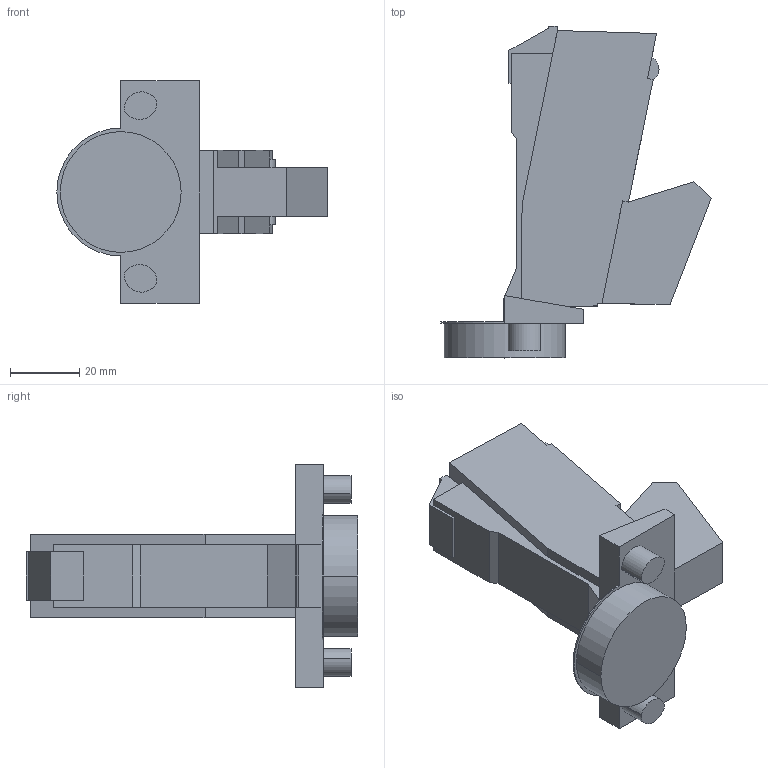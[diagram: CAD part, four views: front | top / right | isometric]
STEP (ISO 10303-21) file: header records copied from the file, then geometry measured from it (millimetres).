
FILE_DESCRIPTION (( 'STEP AP214' ), '1' );
FILE_NAME ('Scharnier TT Impresso 160° HS_BB, K00 - Neu -.step', '2019-09-17T09:15:57', ( '' ), ( '' ), 'SwSTEP 2.0', 'SolidWorks 2019', '' );
FILE_SCHEMA (( 'AUTOMOTIVE_DESIGN' ));
Length unit declared in the file: millimetre
Products named in the file (1): Scharnier TT Impresso 160° HS_BB, K00 - Neu -
Bounding box: 78.27 x 96.09 x 64.5 mm (x, y, z)
Volume: 92289.5 mm3; surface area: 18861.2 mm2
Topology: 1 solids, 1 shells, 65 faces, 173 edges, 114 vertices
Faces by surface type: plane 54, cylinder 11
Entity records: 2031 total; most frequent: CARTESIAN_POINT 353, ORIENTED_EDGE 346, DIRECTION 327, EDGE_CURVE 173, VECTOR 151, LINE 151, VERTEX_POINT 114, AXIS2_PLACEMENT_3D 88
